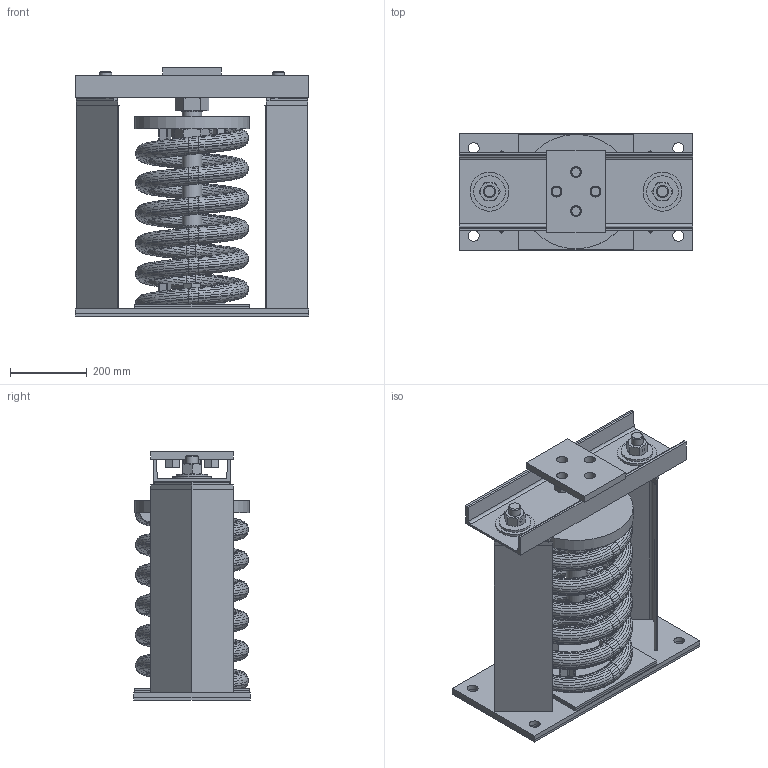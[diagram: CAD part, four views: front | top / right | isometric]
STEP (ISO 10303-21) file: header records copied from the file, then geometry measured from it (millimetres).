
FILE_DESCRIPTION(/* description */ (''),/* implementation_level */ '2;1');
FILE_NAME(/* name */ 'C:\001_Work\Designs\SLR-100 SERIES\SLR 100 SERIES (NON STOCK MOUNTS)\SLR 195-196\SLR-196.stp',/* time_stamp */ '2016-01-19T15:29:00-05:00',/* author */ ('rramoutar'),/* organization */ ('Mason Industries Inc.'),/* preprocessor_version */ 'ST-DEVELOPER v15.6',/* originating_system */ 'Autodesk Inventor 2015',/* authorisation */ '');
FILE_SCHEMA (('CONFIG_CONTROL_DESIGN'));
Products named in the file (1): SLR-196 PER A-31310-2
Bounding box: 609.6 x 304.8 x 647.7 mm (x, y, z)
Volume: 14301372.5 mm3; surface area: 4073269.9 mm2
Topology: 38 solids, 38 shells, 1022 faces, 2185 edges, 1244 vertices
Faces by surface type: bspline 532, plane 285, cone 122, cylinder 80, torus 3
Full cylindrical faces by diameter (mm): 9.525 x2, 12.7 x1, 21.971 x4, 27.813 x2, 28.575 x12, 30.162 x2, 31.75 x2, 32.436 x2, 33.337 x2, 40.894 x1, 44.679 x1, 47.625 x2, 48.26 x1, 50.8 x3, 53.975 x1, 57.15 x4, 76.2 x1, 82.55 x2, 101.6 x2, 298.45 x1
Entity records: 48585 total; most frequent: CARTESIAN_POINT 30283, ORIENTED_EDGE 4170, DIRECTION 2086, EDGE_CURVE 2085, VERTEX_POINT 1215, EDGE_LOOP 1160, B_SPLINE_CURVE_WITH_KNOTS 1076, STYLED_ITEM 1060
